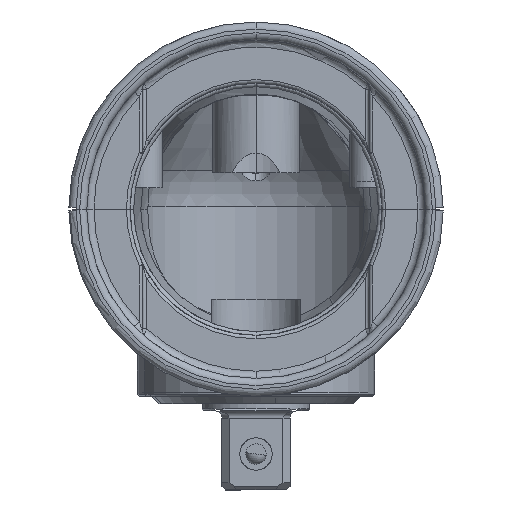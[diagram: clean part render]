
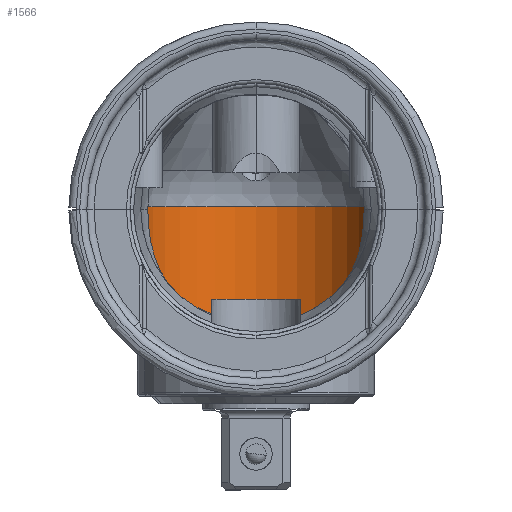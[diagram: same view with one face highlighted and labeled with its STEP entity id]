
A CAD part, front view. The second image highlights one B-rep face of the part: STEP entity #1566.
In plain terms, the highlighted cylindrical face has radius 16.5 mm (diameter 33 mm), a partial arc.
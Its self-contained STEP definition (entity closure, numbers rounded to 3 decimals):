
#64 = ORIENTED_EDGE ( 'NONE', *, *, #21999, .T. ) ;
#105 = CARTESIAN_POINT ( 'NONE',  ( -16.5, 282., -16. ) ) ;
#1380 = AXIS2_PLACEMENT_3D ( 'NONE', #7312, #16879, #18567 ) ;
#1566 = ADVANCED_FACE ( 'NONE', ( #17851 ), #4758, .T. ) ;
#3443 = ORIENTED_EDGE ( 'NONE', *, *, #4967, .F. ) ;
#3496 = DIRECTION ( 'NONE',  ( 0., 0., 1. ) ) ;
#4624 = CARTESIAN_POINT ( 'NONE',  ( 16.5, 282., -16. ) ) ;
#4758 = CYLINDRICAL_SURFACE ( 'NONE', #6472, 16.5 ) ;
#4967 = EDGE_CURVE ( 'NONE', #7918, #10497, #19428, .T. ) ;
#5305 = AXIS2_PLACEMENT_3D ( 'NONE', #6288, #10184, #23790 ) ;
#5728 = DIRECTION ( 'NONE',  ( 0., 0., 1. ) ) ;
#6288 = CARTESIAN_POINT ( 'NONE',  ( 0., 282., 0.33 ) ) ;
#6472 = AXIS2_PLACEMENT_3D ( 'NONE', #12800, #13036, #24625 ) ;
#6481 = ORIENTED_EDGE ( 'NONE', *, *, #11138, .T. ) ;
#6529 = CIRCLE ( 'NONE', #1380, 16.5 ) ;
#7312 = CARTESIAN_POINT ( 'NONE',  ( 0., 282., -16. ) ) ;
#7918 = VERTEX_POINT ( 'NONE', #4624 ) ;
#10184 = DIRECTION ( 'NONE',  ( 0., 0., -1. ) ) ;
#10497 = VERTEX_POINT ( 'NONE', #20147 ) ;
#11035 = CARTESIAN_POINT ( 'NONE',  ( -16.5, 282., 0. ) ) ;
#11138 = EDGE_CURVE ( 'NONE', #24353, #10497, #20577, .T. ) ;
#12576 = ORIENTED_EDGE ( 'NONE', *, *, #16399, .F. ) ;
#12800 = CARTESIAN_POINT ( 'NONE',  ( 0., 282., 0. ) ) ;
#12911 = CARTESIAN_POINT ( 'NONE',  ( -16.5, 282., 0.33 ) ) ;
#13036 = DIRECTION ( 'NONE',  ( 0., 0., 1. ) ) ;
#15577 = LINE ( 'NONE', #11035, #20943 ) ;
#16399 = EDGE_CURVE ( 'NONE', #25197, #7918, #6529, .T. ) ;
#16879 = DIRECTION ( 'NONE',  ( 0., 0., -1. ) ) ;
#17851 = FACE_OUTER_BOUND ( 'NONE', #22477, .T. ) ;
#18567 = DIRECTION ( 'NONE',  ( -1., 0., 0. ) ) ;
#19428 = LINE ( 'NONE', #23361, #21334 ) ;
#20147 = CARTESIAN_POINT ( 'NONE',  ( 16.5, 282., 0.33 ) ) ;
#20577 = CIRCLE ( 'NONE', #5305, 16.5 ) ;
#20943 = VECTOR ( 'NONE', #3496, 1000. ) ;
#21334 = VECTOR ( 'NONE', #5728, 1000. ) ;
#21999 = EDGE_CURVE ( 'NONE', #25197, #24353, #15577, .T. ) ;
#22477 = EDGE_LOOP ( 'NONE', ( #3443, #12576, #64, #6481 ) ) ;
#23361 = CARTESIAN_POINT ( 'NONE',  ( 16.5, 282., 0. ) ) ;
#23790 = DIRECTION ( 'NONE',  ( 1., 0., 0. ) ) ;
#24353 = VERTEX_POINT ( 'NONE', #12911 ) ;
#24625 = DIRECTION ( 'NONE',  ( -1., 0., 0. ) ) ;
#25197 = VERTEX_POINT ( 'NONE', #105 ) ;
